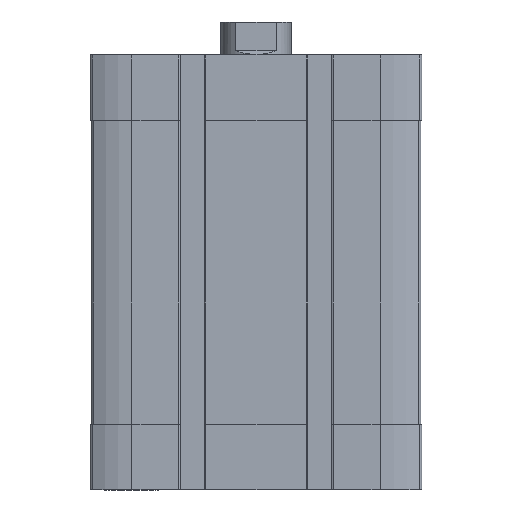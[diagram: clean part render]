
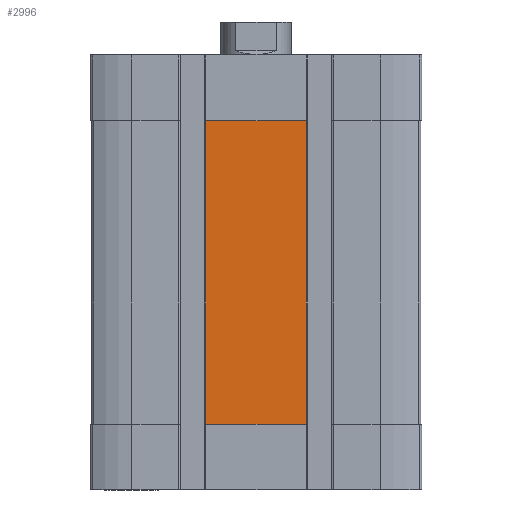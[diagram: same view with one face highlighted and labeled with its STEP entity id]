
A CAD part, front view. The second image highlights one B-rep face of the part: STEP entity #2996.
In plain terms, the highlighted planar face has unit normal (0, -1, 0).
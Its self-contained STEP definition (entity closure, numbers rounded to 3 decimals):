
#12 = DIRECTION ( 'NONE',  ( -1., 0., 0. ) ) ;
#725 = DIRECTION ( 'NONE',  ( 0., 0., -1. ) ) ;
#740 = VECTOR ( 'NONE', #725, 1000. ) ;
#1236 = EDGE_CURVE ( 'NONE', #13663, #2210, #5279, .T. ) ;
#1489 = VECTOR ( 'NONE', #12681, 1000. ) ;
#1829 = PLANE ( 'NONE',  #8102 ) ;
#1872 = LINE ( 'NONE', #10341, #1489 ) ;
#2210 = VERTEX_POINT ( 'NONE', #15302 ) ;
#2388 = CARTESIAN_POINT ( 'NONE',  ( 11.4, -37.5, -15. ) ) ;
#2996 = ADVANCED_FACE ( 'NONE', ( #3854 ), #1829, .T. ) ;
#3489 = CARTESIAN_POINT ( 'NONE',  ( -11.4, -37.5, -84. ) ) ;
#3854 = FACE_OUTER_BOUND ( 'NONE', #6662, .T. ) ;
#4162 = DIRECTION ( 'NONE',  ( 1., 0., 0. ) ) ;
#4296 = DIRECTION ( 'NONE',  ( 0., -1., 0. ) ) ;
#4428 = CARTESIAN_POINT ( 'NONE',  ( -11.4, -37.5, -84. ) ) ;
#4480 = CARTESIAN_POINT ( 'NONE',  ( -11.4, -37.5, -15. ) ) ;
#5279 = LINE ( 'NONE', #4428, #8066 ) ;
#5773 = EDGE_CURVE ( 'NONE', #2210, #5949, #1872, .T. ) ;
#5841 = VECTOR ( 'NONE', #12, 1000. ) ;
#5949 = VERTEX_POINT ( 'NONE', #2388 ) ;
#6662 = EDGE_LOOP ( 'NONE', ( #12299, #8248, #13273, #13466 ) ) ;
#7176 = LINE ( 'NONE', #9143, #740 ) ;
#7819 = CARTESIAN_POINT ( 'NONE',  ( -11.4, -37.5, -84. ) ) ;
#8066 = VECTOR ( 'NONE', #4162, 1000. ) ;
#8102 = AXIS2_PLACEMENT_3D ( 'NONE', #7819, #4296, #12553 ) ;
#8248 = ORIENTED_EDGE ( 'NONE', *, *, #5773, .T. ) ;
#8445 = EDGE_CURVE ( 'NONE', #12823, #13663, #7176, .T. ) ;
#9143 = CARTESIAN_POINT ( 'NONE',  ( -11.4, -37.5, -84. ) ) ;
#10341 = CARTESIAN_POINT ( 'NONE',  ( 11.4, -37.5, -84. ) ) ;
#12214 = EDGE_CURVE ( 'NONE', #5949, #12823, #14415, .T. ) ;
#12299 = ORIENTED_EDGE ( 'NONE', *, *, #1236, .T. ) ;
#12553 = DIRECTION ( 'NONE',  ( 0., 0., -1. ) ) ;
#12681 = DIRECTION ( 'NONE',  ( 0., 0., 1. ) ) ;
#12823 = VERTEX_POINT ( 'NONE', #4480 ) ;
#13273 = ORIENTED_EDGE ( 'NONE', *, *, #12214, .T. ) ;
#13466 = ORIENTED_EDGE ( 'NONE', *, *, #8445, .T. ) ;
#13663 = VERTEX_POINT ( 'NONE', #3489 ) ;
#14242 = CARTESIAN_POINT ( 'NONE',  ( 0., -37.5, -15. ) ) ;
#14415 = LINE ( 'NONE', #14242, #5841 ) ;
#15302 = CARTESIAN_POINT ( 'NONE',  ( 11.4, -37.5, -84. ) ) ;
